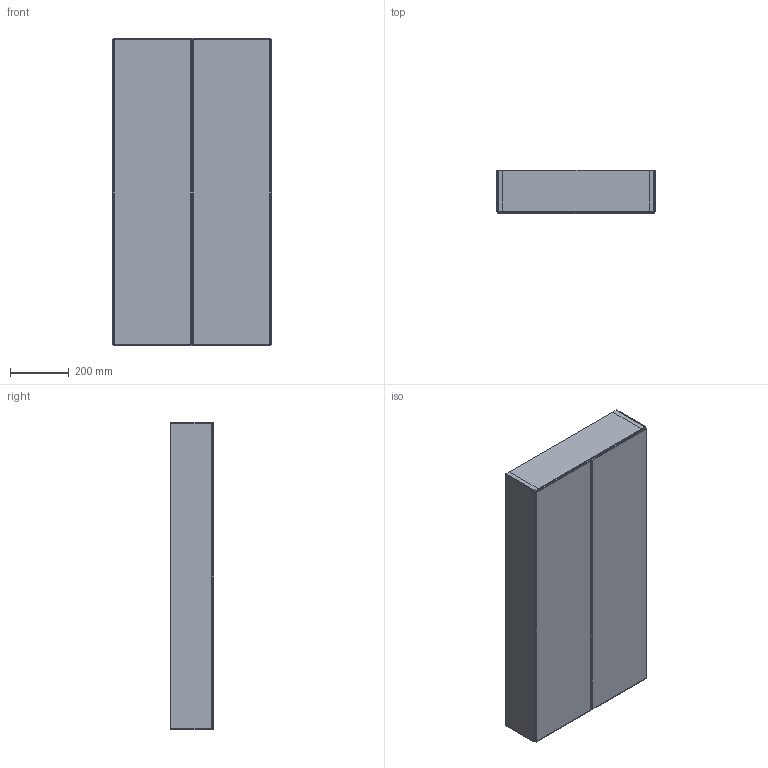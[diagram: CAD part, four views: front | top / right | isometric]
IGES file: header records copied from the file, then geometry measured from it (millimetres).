
Start section: Data from Parasolid IGES Translator 19.0.9, Copyright(c) 2006 Siemens PL M Software. All Rights Reserved.
Global section: file name: noorth-mirror-H 105 D 14,7 W 54_9070.igs; native system: By Siemens PLM Incorporated; preprocessor: XPlus GENERIC/IGES 19.0.9; author: Noname; organization: Noname; date: 20200519.095823; units: metre
Bounding box: 539.82 x 147 x 1050 mm (x, y, z)
Volume: 14283181.2 mm3; surface area: 4183051.4 mm2
Topology: 13 solids, 13 shells, 222 faces, 420 edges, 224 vertices
Faces by surface type: plane 222
